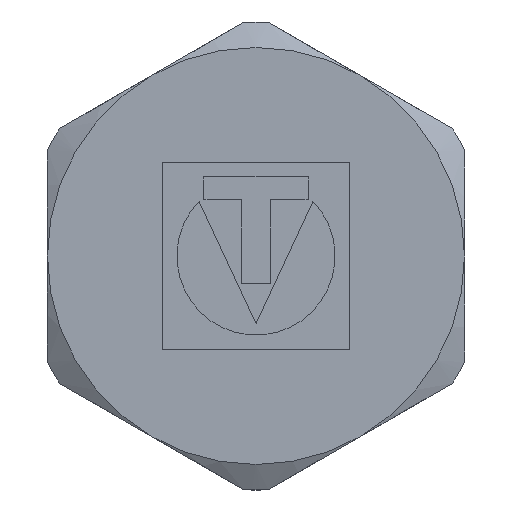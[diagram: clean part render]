
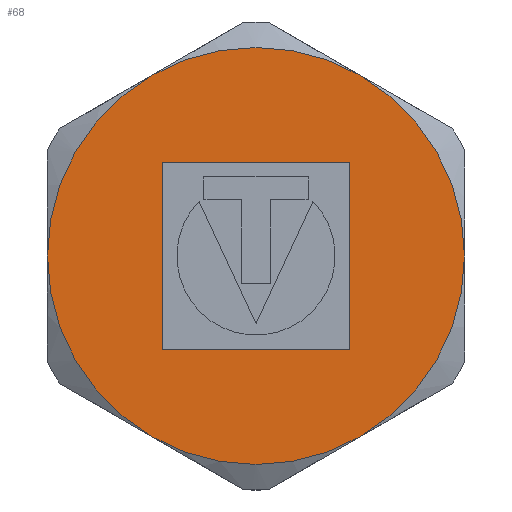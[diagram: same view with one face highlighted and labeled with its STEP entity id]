
A CAD part, front view. The second image highlights one B-rep face of the part: STEP entity #68.
In plain terms, the highlighted planar face has unit normal (0, -1, 0).
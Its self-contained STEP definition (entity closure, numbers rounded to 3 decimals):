
#68=ADVANCED_FACE('',(#266,#268),#270,.F.);
#266=FACE_BOUND('',#267,.T.);
#267=EDGE_LOOP('',(#514,#515,#516,#517,#518,#519));
#268=FACE_BOUND('',#269,.T.);
#269=EDGE_LOOP('',(#520,#521,#522,#523));
#270=PLANE('',#271);
#271=AXIS2_PLACEMENT_3D('',#272,#273,#274);
#272=CARTESIAN_POINT('',(0.,0.,0.));
#273=DIRECTION('',(0.,1.,0.));
#274=DIRECTION('',(-1.,0.,0.));
#514=ORIENTED_EDGE('',*,*,#662,.T.);
#515=ORIENTED_EDGE('',*,*,#661,.T.);
#516=ORIENTED_EDGE('',*,*,#660,.T.);
#517=ORIENTED_EDGE('',*,*,#665,.T.);
#518=ORIENTED_EDGE('',*,*,#664,.T.);
#519=ORIENTED_EDGE('',*,*,#663,.T.);
#520=ORIENTED_EDGE('',*,*,#666,.F.);
#521=ORIENTED_EDGE('',*,*,#667,.F.);
#522=ORIENTED_EDGE('',*,*,#668,.F.);
#523=ORIENTED_EDGE('',*,*,#669,.F.);
#660=EDGE_CURVE('',#752,#792,#795,.F.);
#661=EDGE_CURVE('',#760,#752,#796,.F.);
#662=EDGE_CURVE('',#768,#760,#797,.F.);
#663=EDGE_CURVE('',#776,#768,#798,.F.);
#664=EDGE_CURVE('',#784,#776,#799,.F.);
#665=EDGE_CURVE('',#792,#784,#800,.F.);
#666=EDGE_CURVE('',#801,#802,#803,.F.);
#667=EDGE_CURVE('',#804,#801,#805,.F.);
#668=EDGE_CURVE('',#806,#804,#807,.F.);
#669=EDGE_CURVE('',#802,#806,#808,.F.);
#752=VERTEX_POINT('',#972);
#760=VERTEX_POINT('',#1058);
#768=VERTEX_POINT('',#1132);
#776=VERTEX_POINT('',#1206);
#784=VERTEX_POINT('',#1292);
#792=VERTEX_POINT('',#1366);
#795=CIRCLE('',#1428,12.25);
#796=CIRCLE('',#1432,12.25);
#797=CIRCLE('',#1436,12.25);
#798=CIRCLE('',#1440,12.25);
#799=CIRCLE('',#1444,12.25);
#800=CIRCLE('',#1448,12.25);
#801=VERTEX_POINT('',#1452);
#802=VERTEX_POINT('',#1453);
#803=LINE('',#1454,#1455);
#804=VERTEX_POINT('',#1457);
#805=LINE('',#1458,#1459);
#806=VERTEX_POINT('',#1461);
#807=LINE('',#1462,#1463);
#808=LINE('',#1465,#1466);
#972=CARTESIAN_POINT('',(-12.25,0.,0.));
#1058=CARTESIAN_POINT('',(-6.125,0.,10.609));
#1132=CARTESIAN_POINT('',(6.125,0.,10.609));
#1206=CARTESIAN_POINT('',(12.25,0.,0.));
#1292=CARTESIAN_POINT('',(6.125,0.,-10.609));
#1366=CARTESIAN_POINT('',(-6.125,0.,-10.609));
#1428=AXIS2_PLACEMENT_3D('',#1429,#1430,#1431);
#1429=CARTESIAN_POINT('',(0.,0.,0.));
#1430=DIRECTION('',(0.,1.,0.));
#1431=DIRECTION('',(-0.5,0.,-0.866));
#1432=AXIS2_PLACEMENT_3D('',#1433,#1434,#1435);
#1433=CARTESIAN_POINT('',(0.,0.,0.));
#1434=DIRECTION('',(0.,1.,0.));
#1435=DIRECTION('',(-1.,0.,0.));
#1436=AXIS2_PLACEMENT_3D('',#1437,#1438,#1439);
#1437=CARTESIAN_POINT('',(0.,0.,0.));
#1438=DIRECTION('',(0.,1.,0.));
#1439=DIRECTION('',(-0.5,0.,0.866));
#1440=AXIS2_PLACEMENT_3D('',#1441,#1442,#1443);
#1441=CARTESIAN_POINT('',(0.,0.,0.));
#1442=DIRECTION('',(0.,1.,0.));
#1443=DIRECTION('',(0.5,0.,0.866));
#1444=AXIS2_PLACEMENT_3D('',#1445,#1446,#1447);
#1445=CARTESIAN_POINT('',(0.,0.,0.));
#1446=DIRECTION('',(0.,1.,0.));
#1447=DIRECTION('',(1.,0.,0.));
#1448=AXIS2_PLACEMENT_3D('',#1449,#1450,#1451);
#1449=CARTESIAN_POINT('',(0.,0.,0.));
#1450=DIRECTION('',(0.,1.,0.));
#1451=DIRECTION('',(0.5,0.,-0.866));
#1452=CARTESIAN_POINT('',(5.502,0.,-5.502));
#1453=CARTESIAN_POINT('',(5.502,0.,5.502));
#1454=CARTESIAN_POINT('',(5.502,0.,5.502));
#1455=VECTOR('',#1456,1.);
#1456=DIRECTION('',(0.,0.,-1.));
#1457=CARTESIAN_POINT('',(-5.502,0.,-5.502));
#1458=CARTESIAN_POINT('',(5.502,0.,-5.502));
#1459=VECTOR('',#1460,1.);
#1460=DIRECTION('',(-1.,0.,0.));
#1461=CARTESIAN_POINT('',(-5.502,0.,5.502));
#1462=CARTESIAN_POINT('',(-5.502,0.,-5.502));
#1463=VECTOR('',#1464,1.);
#1464=DIRECTION('',(0.,0.,1.));
#1465=CARTESIAN_POINT('',(-5.502,0.,5.502));
#1466=VECTOR('',#1467,1.);
#1467=DIRECTION('',(1.,0.,0.));
